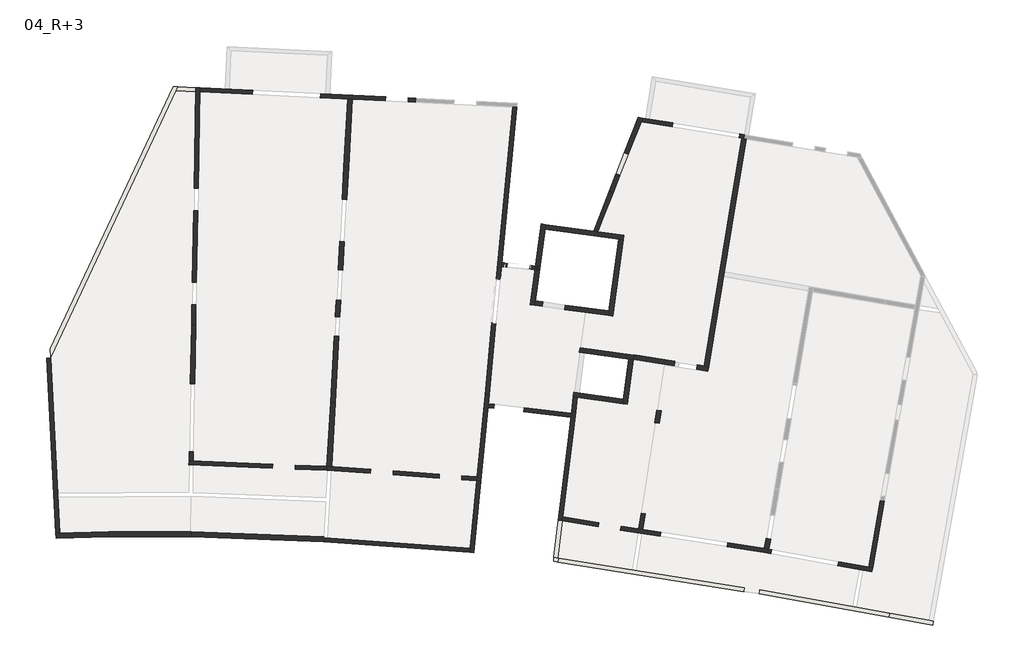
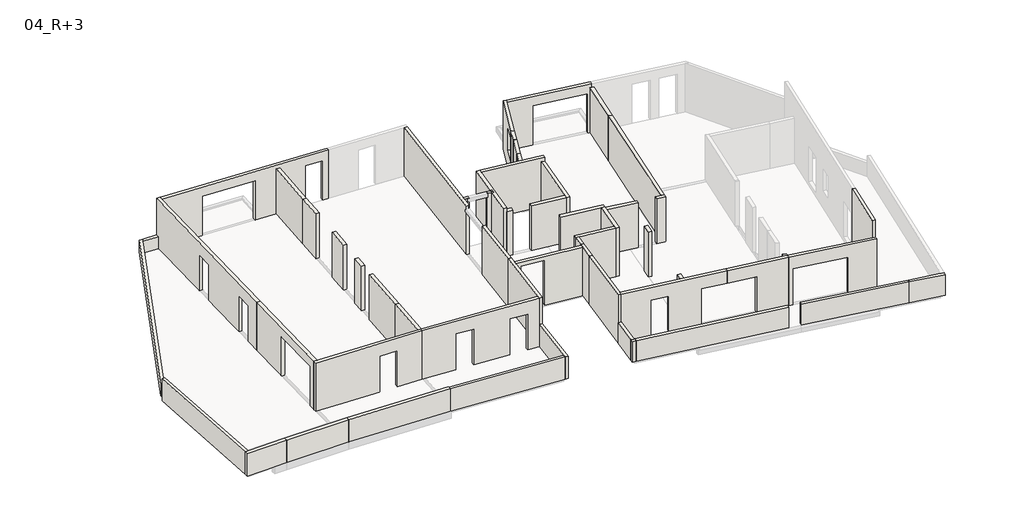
# One storey, part 1 of 2: 58 walls.
"""IFC4 building model written with IfcOpenShell, lengths in millimetres."""

from ifc_helpers import new_model, si_unit, frame, origin, place, context, project, spatial, polyline, outline, extrude, faceted_brep, element, save

model = new_model("IFC4")

# Units and contexts
model_context = context("Model", 3, world=origin())
ifc_project = project(units=[si_unit("LENGTHUNIT", "METRE", prefix="MILLI")], contexts=[model_context])

# Site, building, storey
site = spatial("IfcSite", under=ifc_project)
building = spatial("IfcBuilding", under=site)
storey = spatial("IfcBuildingStorey", under=building, Name="04_R+3", Elevation=29840.0)

# Walls
placement = place(None, origin())
element("IfcWall", 1, ObjectType="premur 18", at=placement, inside=storey, context=model_context, shape_type="Brep", body=[
    faceted_brep([(7155.8639507, 8437.1732179, 29840.0), (7180.2923407, 8615.5079357, 29840.0), (7571.2741046, 11469.7943741, 29840.0), (7595.702488, 11648.1290429, 29840.0), (7595.702488, 11648.1290429, 32540.0), (7571.2741046, 11469.7943741, 32540.0), (7155.8639507, 8437.1732179, 32540.0), (7155.8639507, 8437.1732179, 32340.0), (6977.5111672, 8461.4693588, 29840.0), (6977.5111672, 8461.4693588, 32540.0), (7417.3678084, 11672.5573469, 32540.0), (7417.3678084, 11672.5573469, 29840.0)], [[[0, 1, 2, 3, 4, 5, 6, 7]], [[8, 9, 10, 11]], [[3, 2, 1, 0, 8, 11]], [[6, 5, 4, 10, 9]], [[4, 3, 11, 10]], [[0, 7, 6, 9, 8]]]),
])
element("IfcWall", 2, ObjectType="premur 18", at=placement, inside=storey, context=model_context, shape_type="Brep", body=[
    faceted_brep([(7571.2741046, 11469.7943741, 29840.0), (10483.7664975, 11070.8408458, 29840.0), (10662.1011771, 11046.4125417, 29840.0), (10662.1011771, 11046.4125417, 32340.0), (10662.1011771, 11046.4125417, 32540.0), (7571.2741046, 11469.7943741, 32540.0), (7595.702488, 11648.1290429, 29840.0), (7595.702488, 11648.1290429, 32540.0), (10686.5295651, 11224.7472099, 32540.0), (10686.5295651, 11224.7472099, 29840.0)], [[[0, 1, 2, 3, 4, 5]], [[6, 7, 8, 9]], [[2, 1, 0, 6, 9]], [[5, 4, 8, 7]], [[0, 5, 7, 6]], [[4, 3, 2, 9, 8]]]),
])
element("IfcWall", 3, ObjectType="premur 18", at=placement, inside=storey, context=model_context, shape_type="Brep", body=[
    faceted_brep([(10483.7664975, 11070.8408458, 29840.0), (10093.0803231, 8218.7128543, 29840.0), (10068.6519283, 8040.3781371, 29840.0), (10068.6519283, 8040.3781371, 32340.0), (10093.0803231, 8218.7128543, 32340.0), (10483.7664975, 11070.8408458, 32340.0), (10662.1011771, 11046.4125417, 29840.0), (10662.1011771, 11046.4125417, 32340.0), (10247.0047117, 8016.0819962, 32340.0), (10247.0047117, 8016.0819962, 29840.0)], [[[0, 1, 2, 3, 4, 5]], [[6, 7, 8, 9]], [[2, 1, 0, 6, 9]], [[5, 4, 3, 8, 7]], [[0, 5, 7, 6]], [[3, 2, 9, 8]]]),
])
element("IfcWall", 4, ObjectType="premur 18", at=placement, inside=storey, context=model_context, shape_type="Brep", body=[
    faceted_brep([(10093.0803231, 8218.7128543, 29840.0), (8376.8330718, 8452.5089534, 29840.0), (8376.8330718, 8452.5089534, 31890.0), (8376.8330718, 8452.5089534, 32340.0), (8395.0423714, 8450.0283882, 32340.0), (10093.0803231, 8218.7128543, 32340.0), (10068.6519283, 8040.3781371, 29840.0), (10068.6519283, 8040.3781371, 32340.0), (8370.7462372, 8271.6756538, 32340.0), (8352.5369375, 8274.156219, 32340.0), (8352.5369375, 8274.156219, 31890.0), (8352.5369375, 8274.156219, 29840.0)], [[[0, 1, 2, 3, 4, 5]], [[6, 7, 8, 9, 10, 11]], [[1, 0, 6, 11]], [[3, 2, 1, 11, 10, 9]], [[5, 4, 3, 9, 8, 7]], [[0, 5, 7, 6]]]),
])
element("IfcWall", 5, ObjectType="premur 18", at=placement, inside=storey, context=model_context, shape_type="Brep", body=[
    faceted_brep([(8933.8340773, 6574.2220976, 29840.0), (10896.4175055, 6306.8645431, 29840.0), (11074.7701881, 6282.5680285, 29840.0), (11074.7701881, 6282.5680285, 32540.0), (10896.4175055, 6306.8645431, 32540.0), (8933.8340773, 6574.2220976, 32540.0), (8958.1305919, 6752.5747802, 29840.0), (8958.1305919, 6752.5747802, 32540.0), (11099.0667028, 6460.920711, 32540.0), (11099.0667028, 6460.920711, 32340.0), (11099.0667028, 6460.920711, 29840.0), (11090.6154937, 6462.0719969, 29840.0), (11077.9114759, 6305.6271839, 29840.0)], [[[0, 1, 2, 3, 4, 5]], [[6, 7, 8, 9, 10, 11]], [[2, 1, 0, 6, 11, 10, 12]], [[5, 4, 3, 8, 7]], [[0, 5, 7, 6]], [[3, 2, 12, 10, 9, 8]]]),
])
element("IfcWall", 6, ObjectType="premur 18", at=placement, inside=storey, context=model_context, shape_type="Brep", body=[
    faceted_brep([(10896.4175055, 6306.8645431, 29840.0), (10680.4511709, 4721.5270717, 29840.0), (10656.1546562, 4543.1743891, 29840.0), (10656.1546562, 4543.1743891, 32540.0), (10680.4511709, 4721.5270717, 32540.0), (10896.4175055, 6306.8645431, 32540.0), (11074.7701881, 6282.5680285, 29840.0), (11074.7701881, 6282.5680285, 32540.0), (10834.5073388, 4518.8778745, 32540.0), (10834.5073388, 4518.8778745, 29840.0)], [[[0, 1, 2, 3, 4, 5]], [[6, 7, 8, 9]], [[2, 1, 0, 6, 9]], [[5, 4, 3, 8, 7]], [[0, 5, 7, 6]], [[3, 2, 9, 8]]]),
])
element("IfcWall", 7, ObjectType="premur 18", at=placement, inside=storey, context=model_context, shape_type="SweptSolid", body=[
    extrude(outline(polyline([(8715.5935657, 4989.1944313), (10680.4511709, 4721.5270717), (10656.1546562, 4543.1743891), (8693.9703348, 4810.4775744), (8715.5935657, 4989.1944313)])), frame((0.0, 0.0, 29840.0), z_axis=(0.0, 0.0, 1.0), x_axis=(1.0, 0.0, 0.0)), (0.0, 0.0, 1.0), 2700.0),
])
element("IfcWall", 8, ObjectType="premur 18", at=placement, inside=storey, context=model_context, shape_type="Brep", body=[
    faceted_brep([(7477.3559891, 8575.0403853, 29840.0), (7180.2923407, 8615.5079357, 29840.0), (7180.2923407, 8615.5079357, 32340.0), (7477.3559891, 8575.0403853, 32340.0), (7477.3559891, 8575.0403853, 31890.0), (7453.0598549, 8396.6876509, 29840.0), (7453.0598549, 8396.6876509, 31890.0), (7453.0598549, 8396.6876509, 32340.0), (7155.8639507, 8437.1732179, 32340.0), (7155.8639507, 8437.1732179, 29840.0)], [[[0, 1, 2, 3, 4]], [[5, 6, 7, 8, 9]], [[1, 0, 5, 9]], [[3, 2, 8, 7]], [[0, 4, 3, 7, 6, 5]], [[2, 1, 9, 8]]]),
])
element("IfcWall", 9, ObjectType="Voile BA 16", at=placement, inside=storey, context=model_context, shape_type="Brep", body=[
    faceted_brep([(4853.4022548, 1472.8107539, 29840.0), (4593.763886, -1202.5933393, 29840.0), (4578.3043373, -1361.8939077, 29840.0), (4578.3043373, -1361.8939077, 31080.0), (4593.763886, -1202.5933393, 31080.0), (4853.4022548, 1472.8107539, 31080.0), (5013.0456639, 1461.3907987, 29840.0), (5013.0456639, 1461.3907987, 31080.0), (4737.938527, -1373.408863, 31080.0), (4737.938527, -1373.408863, 29840.0)], [[[0, 1, 2, 3, 4, 5]], [[6, 7, 8, 9]], [[2, 1, 0, 6, 9]], [[5, 4, 3, 8, 7]], [[0, 5, 7, 6]], [[3, 2, 9, 8]]]),
])
element("IfcWall", 10, ObjectType="Voile BA 16", at=placement, inside=storey, context=model_context, shape_type="SweptSolid", body=[
    extrude(outline(polyline([(4593.763886, -1202.5933393), (4578.3043373, -1361.8939077), (-1223.164441, -943.4142931), (-1217.0936626, -783.4364809), (4593.763886, -1202.5933393)])), frame((0.0, 0.0, 29840.0), z_axis=(0.0, 0.0, 1.0), x_axis=(1.0, 0.0, 0.0)), (0.0, 0.0, 1.0), 1240.0),
])
element("IfcWall", 11, ObjectType="Voile BA 16", at=placement, inside=storey, context=model_context, shape_type="SweptSolid", body=[
    extrude(outline(polyline([(-12056.6013268, 6348.7507304), (-11688.4824334, -590.9455417), (-11848.5105581, -594.6559914), (-12216.3766957, 6340.2753837), (-12056.6013268, 6348.7507304)])), frame((0.0, 0.0, 29840.0), z_axis=(0.0, 0.0, 1.0), x_axis=(1.0, 0.0, 0.0)), (0.0, 0.0, 1.0), 1240.0),
])
element("IfcWall", 12, ObjectType="Voile BA 16", at=placement, inside=storey, context=model_context, shape_type="Brep", body=[
    faceted_brep([(-12058.0443978, 6375.9551868, 29840.0), (-7091.4131885, 16959.5835857, 29840.0), (-7017.9135499, 17116.2074278, 29840.0), (-7017.9135499, 17116.2074278, 30500.0), (-7091.4131885, 16959.5835857, 30500.0), (-12058.0443978, 6375.9551868, 30500.0), (-12075.9937842, 6714.3330646, 29840.0), (-12075.9937842, 6714.3330646, 30500.0), (-7190.7226984, 17124.5873438, 30500.0), (-7190.7226984, 17124.5873438, 29840.0)], [[[0, 1, 2, 3, 4, 5]], [[6, 7, 8, 9]], [[2, 1, 0, 6, 9]], [[5, 4, 3, 8, 7]], [[3, 2, 9, 8]], [[0, 5, 7, 6]]]),
])
element("IfcWall", 13, ObjectType="Voile BA 16", at=placement, inside=storey, context=model_context, shape_type="SweptSolid", body=[
    extrude(outline(polyline([(-6291.6405123, 16920.8007554), (-7091.4131885, 16959.5835857), (-7017.9135499, 17116.2074278), (-6288.703255, 17080.8463309), (-6291.6405123, 16920.8007554)])), frame((0.0, 0.0, 29840.0), z_axis=(0.0, 0.0, 1.0), x_axis=(1.0, 0.0, 0.0)), (0.0, 0.0, 1.0), 660.0),
])
element("IfcWall", 14, ObjectType="Voile BA 16", at=placement, inside=storey, context=model_context, shape_type="SweptSolid", body=[
    extrude(outline(polyline([(8534.8528414, 0.0), (8534.8528414, -2700.0), (-32.7715161, -2700.0), (-32.7715161, 0.0), (2057.0997059, 0.0), (2057.0997059, -2200.0), (4757.0997059, -2200.0), (4757.0997059, 0.0), (7343.3769752, 0.0), (7343.3769752, -2200.0), (8243.3769752, -2200.0), (8243.3769752, 0.0), (8534.8528414, 0.0)])), frame((-6099.0228076, 16911.4602765, 29840.0), z_axis=(0.048435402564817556, 0.9988263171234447, 0.0), x_axis=(0.9988263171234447, -0.048435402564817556, 0.0)), (0.0, 0.0, 1.0), 160.0),
])
element("IfcWall", 15, ObjectType="Voile BA 16", at=placement, inside=storey, context=model_context, shape_type="SweptSolid", body=[
    extrude(outline(polyline([(5630.8345119, 9483.7432392), (6293.3492324, 16310.5254411), (6453.3479524, 16302.7667325), (5790.086352, 9468.2884195), (5630.8345119, 9483.7432392)])), frame((0.0, 0.0, 29840.0), z_axis=(0.0, 0.0, 1.0), x_axis=(1.0, 0.0, 0.0)), (0.0, 0.0, 1.0), 2700.0),
])
element("IfcWall", 16, ObjectType="Voile BA 16", at=placement, inside=storey, context=model_context, shape_type="SweptSolid", body=[
    extrude(outline(polyline([(5185.8717031, 4898.6916323), (5461.6436427, 7740.3416525), (5620.8954827, 7724.8868327), (5345.1235431, 4883.2368125), (5185.8717031, 4898.6916323)])), frame((0.0, 0.0, 29840.0), z_axis=(0.0, 0.0, 1.0), x_axis=(1.0, 0.0, 0.0)), (0.0, 0.0, 1.0), 2700.0),
])
element("IfcWall", 17, ObjectType="Voile BA 16", at=placement, inside=storey, context=model_context, shape_type="Brep", body=[
    faceted_brep([(-1077.9433171, 2057.5133518, 29840.0), (-1077.9433171, 2057.5133518, 32540.0), (4868.8620342, 1632.1137002, 32540.0), (4868.8620342, 1632.1137002, 29840.0), (4269.2328859, 1675.0076601, 29840.0), (4269.2328859, 1675.0076601, 31840.0), (3371.5267964, 1739.2243, 31840.0), (3371.5267964, 1739.2243, 29840.0), (1546.2729674, 1869.7922768, 29840.0), (1546.2729674, 1869.7922768, 31840.0), (648.5668779, 1934.0089167, 31840.0), (648.5668779, 1934.0089167, 29840.0), (-1089.3596086, 1897.9211581, 32540.0), (-1089.3596086, 1897.9211581, 29840.0), (637.1505864, 1774.416723, 29840.0), (637.1505864, 1774.416723, 31840.0), (1534.8566759, 1710.2000831, 31840.0), (1534.8566759, 1710.2000831, 29840.0), (3360.1105049, 1579.6321064, 29840.0), (3360.1105049, 1579.6321064, 31840.0), (4257.8165944, 1515.4154665, 31840.0), (4257.8165944, 1515.4154665, 29840.0), (4853.4022548, 1472.8107539, 29840.0), (4853.4022548, 1472.8107539, 32540.0)], [[[0, 1, 2, 3, 4, 5, 6, 7, 8, 9, 10, 11]], [[12, 13, 14, 15, 16, 17, 18, 19, 20, 21, 22, 23]], [[13, 0, 11, 14]], [[3, 22, 21, 4]], [[17, 8, 7, 18]], [[1, 0, 13, 12]], [[2, 1, 12, 23]], [[3, 2, 23, 22]], [[16, 9, 8, 17]], [[9, 16, 15, 10]], [[10, 15, 14, 11]], [[20, 5, 4, 21]], [[5, 20, 19, 6]], [[6, 19, 18, 7]]]),
])
element("IfcWall", 18, ObjectType="Voile BA 16", at=placement, inside=storey, context=model_context, shape_type="Brep", body=[
    faceted_brep([(-6560.5366268, 2269.1621879, 32540.0), (-1086.2719461, 2054.9684487, 32540.0), (-1086.2719461, 2054.9684487, 29840.0), (-2344.3655244, 2104.1943783, 29840.0), (-2344.3655244, 2104.1943783, 31840.0), (-3243.6773854, 2139.3821125, 31840.0), (-3243.6773854, 2139.3821125, 29840.0), (-6560.5366268, 2269.1621879, 29840.0), (-1092.5275433, 1895.0907846, 32540.0), (-6563.4731859, 2109.1546584, 32540.0), (-6563.4731859, 2109.1546584, 29840.0), (-3249.9329826, 1979.5044483, 29840.0), (-3249.9329826, 1979.5044483, 31840.0), (-2350.6211216, 1944.3167142, 31840.0), (-2350.6211216, 1944.3167142, 29840.0), (-1092.5275433, 1895.0907846, 29840.0)], [[[0, 1, 2, 3, 4, 5, 6, 7]], [[8, 9, 10, 11, 12, 13, 14, 15]], [[2, 15, 14, 3]], [[10, 7, 6, 11]], [[1, 0, 9, 8]], [[2, 1, 8, 15]], [[0, 7, 10, 9]], [[13, 4, 3, 14]], [[4, 13, 12, 5]], [[5, 12, 11, 6]]]),
])
element("IfcWall", 19, ObjectType="Voile BA 16", at=placement, inside=storey, context=model_context, shape_type="Brep", body=[
    faceted_brep([(-6301.9039849, 7641.9994285, 29840.0), (-6301.9039849, 7641.9994285, 32540.0), (-6400.6245149, 2262.9052429, 32540.0), (-6400.6245149, 2262.9052429, 29840.0), (-6393.8529492, 2631.8750004, 29840.0), (-6393.8529492, 2631.8750004, 32040.0), (-6344.3091887, 5331.4204095, 32040.0), (-6344.3091887, 5331.4204095, 29840.0), (-6461.8770461, 7644.935355, 32540.0), (-6461.8770461, 7644.935355, 29840.0), (-6504.28225, 5334.356336, 29840.0), (-6504.28225, 5334.356336, 32040.0), (-6553.8260104, 2634.8109269, 32040.0), (-6553.8260104, 2634.8109269, 29840.0), (-6560.5366268, 2269.1621879, 29840.0), (-6560.5366268, 2269.1621879, 32540.0)], [[[0, 1, 2, 3, 4, 5, 6, 7]], [[8, 9, 10, 11, 12, 13, 14, 15]], [[9, 0, 7, 10]], [[3, 14, 13, 4]], [[1, 0, 9, 8]], [[2, 1, 8, 15]], [[3, 2, 15, 14]], [[12, 5, 4, 13]], [[5, 12, 11, 6]], [[6, 11, 10, 7]]]),
])
element("IfcWall", 20, ObjectType="Voile BA 16", at=placement, inside=storey, context=model_context, shape_type="SweptSolid", body=[
    extrude(outline(polyline([(6050.6642878, 9961.4814146), (5839.9607901, 9982.2119836), (5855.4156234, 10141.4639641), (6066.3306285, 10120.7125854), (6050.6642878, 9961.4814146)])), frame((0.0, 0.0, 29840.0), z_axis=(0.0, 0.0, 1.0), x_axis=(1.0, 0.0, 0.0)), (0.0, 0.0, 1.0), 2700.0),
])
element("IfcWall", 21, ObjectType="Voile BA 16", at=placement, inside=storey, context=model_context, shape_type="SweptSolid", body=[
    extrude(outline(polyline([(9863.2982107, 11887.5404513), (9657.543771, 11365.6977971), (9494.3689629, 11388.0495003), (9714.450389, 11946.2288316), (9863.2982107, 11887.5404513)])), frame((0.0, 0.0, 29840.0), z_axis=(0.0, 0.0, 1.0), x_axis=(1.0, 0.0, 0.0)), (0.0, 0.0, 1.0), 2700.0),
])
element("IfcWall", 22, ObjectType="Voile BA 16", at=placement, inside=storey, context=model_context, shape_type="Brep", body=[
    faceted_brep([(15455.8642086, 15054.3095664, 32540.0), (11375.9056437, 15723.8760304, 32540.0), (11375.9056437, 15723.8760304, 29840.0), (12608.1027832, 15521.6588097, 29840.0), (12608.1027832, 15521.6588097, 32040.0), (15272.462294, 15084.4078552, 32040.0), (15272.462294, 15084.4078552, 29840.0), (15455.8642086, 15054.3095664, 29840.0), (11435.9497903, 15876.1624009, 32540.0), (15481.7753763, 15212.1975374, 32540.0), (15481.7753763, 15212.1975374, 29840.0), (15298.3734616, 15242.2958262, 29840.0), (15298.3734616, 15242.2958262, 32040.0), (12634.0139508, 15679.5467807, 32040.0), (12634.0139508, 15679.5467807, 29840.0), (11435.9497903, 15876.1624009, 29840.0)], [[[0, 1, 2, 3, 4, 5, 6, 7]], [[8, 9, 10, 11, 12, 13, 14, 15]], [[10, 7, 6, 11]], [[2, 15, 14, 3]], [[1, 0, 9, 8]], [[2, 1, 8, 15]], [[5, 12, 11, 6]], [[12, 5, 4, 13]], [[13, 4, 3, 14]], [[7, 10, 9, 0]]]),
])
element("IfcWall", 23, ObjectType="Voile BA 16", at=placement, inside=storey, context=model_context, shape_type="SweptSolid", body=[
    extrude(outline(polyline([(-3959.0162281, -2700.0), (-3959.0162281, 0.0), (-3762.2881659, 0.0), (-3762.2881659, -2000.0), (-1062.2881659, -2000.0), (-1062.2881659, 0.0), (305.6110934, 0.0), (305.6110934, -2700.0), (-3959.0162281, -2700.0)])), frame((20234.7782584, -2085.0521102, 29840.0), z_axis=(0.17841179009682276, 0.9839559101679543, 0.0), x_axis=(0.9839559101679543, -0.17841179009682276, 0.0)), (0.0, 0.0, 1.0), 160.0),
])
element("IfcWall", 24, ObjectType="Voile BA 16", at=placement, inside=storey, context=model_context, shape_type="SweptSolid", body=[
    extrude(outline(polyline([(-94.379039, -2700.0), (-3106.2353635, -2700.0), (-3106.2353635, -2000.0), (-1656.185895, -2000.0), (-1656.185895, 0.0), (-94.379039, 0.0), (-94.379039, -2700.0)])), frame((16435.9040937, -1393.9246371, 29840.0), z_axis=(0.1544218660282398, 0.9880050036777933, 0.0), x_axis=(0.9880050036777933, -0.1544218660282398, 0.0)), (0.0, 0.0, 1.0), 160.0),
])
element("IfcWall", 25, ObjectType="Voile BA 16", at=placement, inside=storey, context=model_context, shape_type="Brep", body=[
    faceted_brep([(8278.3152724, 43.021616, 32540.0), (13391.6355106, -756.1731753, 32540.0), (13391.6355106, -756.1731753, 31840.0), (12156.678131, -563.1534818, 31840.0), (12156.678131, -563.1534818, 29840.0), (10584.0459965, -317.3563574, 29840.0), (10584.0459965, -317.3563574, 31840.0), (9694.8414931, -178.376678, 31840.0), (9694.8414931, -178.376678, 29840.0), (8278.3152724, 43.021616, 29840.0), (13366.928012, -914.2539759, 32540.0), (8259.0852479, -115.9152954, 32540.0), (8259.0852479, -115.9152954, 29840.0), (9670.1339946, -336.4574786, 29840.0), (9670.1339946, -336.4574786, 31840.0), (10559.3384979, -475.437158, 31840.0), (10559.3384979, -475.437158, 29840.0), (12131.9706324, -721.2342824, 29840.0), (12131.9706324, -721.2342824, 31840.0), (13366.928012, -914.2539759, 31840.0)], [[[0, 1, 2, 3, 4, 5, 6, 7, 8, 9]], [[10, 11, 12, 13, 14, 15, 16, 17, 18, 19]], [[12, 9, 8, 13]], [[16, 5, 4, 17]], [[1, 0, 11, 10]], [[1, 10, 19, 2]], [[0, 9, 12, 11]], [[15, 6, 5, 16]], [[6, 15, 14, 7]], [[7, 14, 13, 8]], [[18, 3, 2, 19]], [[3, 18, 17, 4]]]),
])
element("IfcWall", 26, ObjectType="Voile BA 16", at=placement, inside=storey, context=model_context, shape_type="SweptSolid", body=[
    extrude(outline(polyline([(8662.7412613, 3220.3175798), (8259.0852479, -115.9152954), (8100.909579, -91.1929692), (8503.8996748, 3239.5360709), (8662.7412613, 3220.3175798)])), frame((0.0, 0.0, 29840.0), z_axis=(0.0, 0.0, 1.0), x_axis=(1.0, 0.0, 0.0)), (0.0, 0.0, 1.0), 2700.0),
])
element("IfcWall", 27, ObjectType="Voile BA 16", at=placement, inside=storey, context=model_context, shape_type="Brep", body=[
    faceted_brep([(5311.2009379, 4533.6864847, 32540.0), (8615.1949896, 4159.3962386, 32540.0), (8615.1949896, 4159.3962386, 29840.0), (6740.8726327, 4371.7273037, 29840.0), (6740.8726327, 4371.7273037, 32340.0), (5548.4992872, 4506.8043366, 32340.0), (5548.4992872, 4506.8043366, 29840.0), (5311.2009379, 4533.6864847, 29840.0), (8595.9759431, 4000.550061, 32540.0), (5295.7441249, 4374.4141056, 32540.0), (5295.7441249, 4374.4141056, 29840.0), (5530.4890161, 4347.8212238, 29840.0), (5530.4890161, 4347.8212238, 32340.0), (6722.8623617, 4212.744191, 32340.0), (6722.8623617, 4212.744191, 29840.0), (8595.9759431, 4000.550061, 29840.0)], [[[0, 1, 2, 3, 4, 5, 6, 7]], [[8, 9, 10, 11, 12, 13, 14, 15]], [[2, 15, 14, 3]], [[10, 7, 6, 11]], [[1, 0, 9, 8]], [[2, 1, 8, 15]], [[5, 12, 11, 6]], [[12, 5, 4, 13]], [[13, 4, 3, 14]], [[0, 7, 10, 9]]]),
])
element("IfcWall", 28, ObjectType="Voile BA 16", at=placement, inside=storey, context=model_context, shape_type="SweptSolid", body=[
    extrude(outline(polyline([(11289.1734201, -427.5654071), (11386.4713689, 194.9512812), (11544.5521432, 170.2436141), (11447.2542207, -452.2729057), (11289.1734201, -427.5654071)])), frame((0.0, 0.0, 29840.0), z_axis=(0.0, 0.0, 1.0), x_axis=(1.0, 0.0, 0.0)), (0.0, 0.0, 1.0), 2500.0),
])
element("IfcWall", 29, ObjectType="Voile BA 16", at=placement, inside=storey, context=model_context, shape_type="Brep", body=[
    faceted_brep([(22980.7538443, -4089.6297088, 29840.0), (22823.383738, -4060.730051, 29840.0), (21255.8059121, -3772.8579522, 29840.0), (21255.8059121, -3772.8579522, 30990.0), (22823.383738, -4060.730051, 30990.0), (22980.7538443, -4089.6297088, 30990.0), (22952.5776329, -4247.1309522, 29840.0), (22952.5776329, -4247.1309522, 30990.0), (21227.3644486, -3930.3104844, 30990.0), (21227.3644486, -3930.3104844, 29840.0)], [[[0, 1, 2, 3, 4, 5]], [[6, 7, 8, 9]], [[2, 1, 0, 6, 9]], [[5, 4, 3, 8, 7]], [[0, 5, 7, 6]], [[3, 2, 9, 8]]]),
])
element("IfcWall", 30, ObjectType="Voile BA 16", at=placement, inside=storey, context=model_context, shape_type="SweptSolid", body=[
    extrude(outline(polyline([(8259.0852479, -115.9152954), (8081.0248123, -1587.5918201), (7922.8865361, -1562.560442), (8100.909579, -91.1929692), (8259.0852479, -115.9152954)])), frame((0.0, 0.0, 29840.0), z_axis=(0.0, 0.0, 1.0), x_axis=(1.0, 0.0, 0.0)), (0.0, 0.0, 1.0), 1150.0),
])
element("IfcWall", 31, ObjectType="Voile BA 16", at=placement, inside=storey, context=model_context, shape_type="Brep", body=[
    faceted_brep([(8120.7469829, -1593.8793596, 29840.0), (8081.0248123, -1587.5918201, 29840.0), (7922.8865361, -1562.560442, 29840.0), (7922.8865361, -1562.560442, 30990.0), (8081.0248123, -1587.5918201, 30990.0), (8120.7469829, -1593.8793596, 30990.0), (8095.7323494, -1751.9118503, 29840.0), (8095.7323494, -1751.9118503, 30990.0), (7903.6551804, -1721.5083557, 30990.0), (7903.6551804, -1721.5083557, 29840.0)], [[[0, 1, 2, 3, 4, 5]], [[6, 7, 8, 9]], [[2, 1, 0, 6, 9]], [[5, 4, 3, 8, 7]], [[0, 5, 7, 6]], [[3, 2, 9, 8]]]),
])
element("IfcWall", 32, ObjectType="Voile BA 16", at=placement, inside=storey, context=model_context, shape_type="Brep", body=[
    faceted_brep([(8095.7323494, -1751.9118503, 29840.0), (11088.7031384, -2225.6629565, 29840.0), (15456.0438842, -2916.9602177, 29840.0), (15456.0438842, -2916.9602177, 30990.0), (8095.7323494, -1751.9118503, 30990.0), (8120.7469829, -1593.8793596, 29840.0), (8120.7469829, -1593.8793596, 30990.0), (15481.0585177, -2758.927727, 30990.0), (15481.0585177, -2758.927727, 29840.0), (11113.4112314, -2067.5819441, 29840.0)], [[[0, 1, 2, 3, 4]], [[5, 6, 7, 8, 9]], [[2, 1, 0, 5, 9, 8]], [[3, 2, 8, 7]], [[4, 3, 7, 6]], [[0, 4, 6, 5]]]),
])
element("IfcWall", 33, ObjectType="Voile BA 16", at=placement, inside=storey, context=model_context, shape_type="Brep", body=[
    faceted_brep([(16066.033767, -3013.4922906, 29840.0), (16066.4277326, -3013.5622716, 29840.0), (19823.0836221, -3680.8650816, 29840.0), (21227.3644486, -3930.3104844, 29840.0), (21227.3644486, -3930.3104844, 30990.0), (16066.033767, -3013.4922906, 30990.0), (16094.0168597, -2855.9583371, 29840.0), (16094.0168597, -2855.9583371, 30990.0), (21255.8059121, -3772.8579522, 30990.0), (21255.8059121, -3772.8579522, 29840.0), (19851.2645179, -3523.3662642, 29840.0), (16094.4108253, -2856.028318, 29840.0)], [[[0, 1, 2, 3, 4, 5]], [[6, 7, 8, 9, 10, 11]], [[3, 2, 1, 0, 6, 11, 10, 9]], [[5, 4, 8, 7]], [[0, 5, 7, 6]], [[4, 3, 9, 8]]]),
])
element("IfcWall", 34, ObjectType="Voile BA 16", at=placement, inside=storey, context=model_context, shape_type="Brep", body=[
    faceted_brep([(6965.3621839, 9871.5448846, 29840.0), (7166.8828389, 9843.9404718, 29840.0), (7166.8828389, 9843.9404718, 32540.0), (6965.3621839, 9871.5448846, 32540.0), (6965.3621839, 9871.5448846, 32340.0), (6987.0763024, 10030.0645901, 29840.0), (6987.0763024, 10030.0645901, 32540.0), (7188.5969575, 10002.4601773, 32540.0), (7188.5969575, 10002.4601773, 29840.0), (6979.4329038, 9974.2654429, 32540.0)], [[[0, 1, 2, 3, 4]], [[5, 6, 7, 8]], [[1, 0, 5, 8]], [[2, 1, 8, 7]], [[3, 2, 7, 6, 9]], [[0, 4, 3, 9, 6, 5]]]),
])
element("IfcWall", 35, ObjectType="Voile BA 16", at=placement, inside=storey, context=model_context, shape_type="SweptSolid", body=[
    extrude(outline(polyline([(20406.5986091, -1953.5978221), (20879.4456935, 689.4384309), (21036.9450605, 661.2613234), (20564.0979761, -1981.7749296), (20406.5986091, -1953.5978221)])), frame((0.0, 0.0, 29840.0), z_axis=(0.0, 0.0, 1.0), x_axis=(1.0, 0.0, 0.0)), (0.0, 0.0, 1.0), 3660.0),
])
element("IfcWall", 36, ObjectType="Voile BA 16", at=placement, inside=storey, context=model_context, shape_type="Brep", body=[
    faceted_brep([(10530.8785367, 13580.6844228, 29840.0), (11435.9497903, 15876.1624009, 29840.0), (11435.9497903, 15876.1624009, 32540.0), (10530.8785367, 13580.6844228, 32540.0), (10869.4725586, 14439.440148, 30840.0), (10539.3504193, 13602.1711511, 30840.0), (10539.3504193, 13602.1711511, 32040.0), (10869.4725586, 14439.440148, 32040.0), (10382.030715, 13639.3728031, 29840.0), (10382.030715, 13639.3728031, 32540.0), (11274.4144331, 15902.6721451, 32540.0), (11274.4144331, 15902.6721451, 29840.0), (10720.6247369, 14498.1285283, 30840.0), (10720.6247369, 14498.1285283, 32040.0), (10390.5025977, 13660.8595314, 32040.0), (10390.5025977, 13660.8595314, 30840.0)], [[[0, 1, 2, 3], [4, 5, 6, 7]], [[8, 9, 10, 11], [12, 13, 14, 15]], [[1, 0, 8, 11]], [[3, 2, 10, 9]], [[0, 3, 9, 8]], [[2, 1, 11, 10]], [[12, 15, 5, 4]], [[15, 14, 6, 5]], [[14, 13, 7, 6]], [[13, 12, 4, 7]]]),
])
element("IfcWall", 37, ObjectType="Voile BA 16", at=placement, inside=storey, context=model_context, shape_type="SweptSolid", body=[
    extrude(outline(polyline([(8852.5238601, 4788.8782466), (8782.8568302, 4213.0774955), (8624.0152437, 4232.2959865), (8693.9703348, 4810.4775744), (8852.5238601, 4788.8782466)])), frame((0.0, 0.0, 29840.0), z_axis=(0.0, 0.0, 1.0), x_axis=(1.0, 0.0, 0.0)), (0.0, 0.0, 1.0), 2700.0),
])
element("IfcWall", 38, ObjectType="Voile BA 16", at=placement, inside=storey, context=model_context, shape_type="SweptSolid", body=[
    extrude(outline(polyline([(10530.8785367, 13580.6844228), (10266.7808253, 12910.8692253), (10117.9330036, 12969.5576056), (10382.030715, 13639.3728031), (10530.8785367, 13580.6844228)])), frame((0.0, 0.0, 29840.0), z_axis=(0.0, 0.0, 1.0), x_axis=(1.0, 0.0, 0.0)), (0.0, 0.0, 1.0), 2700.0),
])
element("IfcWall", 39, ObjectType="Voile BA 16", at=placement, inside=storey, context=model_context, shape_type="SweptSolid", body=[
    extrude(outline(polyline([(4853.4022548, 1472.8107539), (5185.8717031, 4898.6916323), (5345.1235431, 4883.2368125), (5013.0456639, 1461.3907987), (4853.4022548, 1472.8107539)])), frame((0.0, 0.0, 29840.0), z_axis=(0.0, 0.0, 1.0), x_axis=(1.0, 0.0, 0.0)), (0.0, 0.0, 1.0), 2700.0),
])
element("IfcWall", 40, ObjectType="Voile BA 16", at=placement, inside=storey, context=model_context, shape_type="Brep", body=[
    faceted_brep([(-6128.8186029, 17073.0931536, 32540.0), (-6301.9039849, 7641.9994285, 32540.0), (-6301.9039849, 7641.9994285, 29840.0), (-6286.9164821, 8458.6399901, 29840.0), (-6286.9164821, 8458.6399901, 31840.0), (-6270.4018952, 9358.4884598, 31840.0), (-6270.4018952, 9358.4884598, 29840.0), (-6218.4627415, 12188.5542988, 29840.0), (-6218.4627415, 12188.5542988, 31840.0), (-6201.9481547, 13088.4027685, 31840.0), (-6201.9481547, 13088.4027685, 29840.0), (-6128.8186029, 17073.0931536, 29840.0), (-6461.8770461, 7644.935355, 32540.0), (-6288.703255, 17080.8463309, 32540.0), (-6288.703255, 17080.8463309, 29840.0), (-6361.921216, 13091.3386951, 29840.0), (-6361.921216, 13091.3386951, 31840.0), (-6378.4358028, 12191.4902254, 31840.0), (-6378.4358028, 12191.4902254, 29840.0), (-6430.3749565, 9361.4243864, 29840.0), (-6430.3749565, 9361.4243864, 31840.0), (-6446.8895433, 8461.5759167, 31840.0), (-6446.8895433, 8461.5759167, 29840.0), (-6461.8770461, 7644.935355, 29840.0)], [[[0, 1, 2, 3, 4, 5, 6, 7, 8, 9, 10, 11]], [[12, 13, 14, 15, 16, 17, 18, 19, 20, 21, 22, 23]], [[2, 23, 22, 3]], [[11, 10, 15, 14]], [[18, 7, 6, 19]], [[1, 0, 13, 12]], [[2, 1, 12, 23]], [[17, 8, 7, 18]], [[8, 17, 16, 9]], [[9, 16, 15, 10]], [[21, 4, 3, 22]], [[4, 21, 20, 5]], [[5, 20, 19, 6]], [[0, 11, 14, 13]]]),
])
element("IfcWall", 41, ObjectType="Voile BA 16", at=placement, inside=storey, context=model_context, shape_type="SweptSolid", body=[
    extrude(outline(polyline([(10266.7808253, 12910.8692253), (9863.2982107, 11887.5404513), (9714.450389, 11946.2288316), (10117.9330036, 12969.5576056), (10266.7808253, 12910.8692253)])), frame((0.0, 0.0, 29840.0), z_axis=(0.0, 0.0, 1.0), x_axis=(1.0, 0.0, 0.0)), (0.0, 0.0, 1.0), 2700.0),
])
element("IfcWall", 42, ObjectType="Voile BA 16", at=placement, inside=storey, context=model_context, shape_type="SweptSolid", body=[
    extrude(outline(polyline([(8782.8568302, 4213.0774955), (8662.7412613, 3220.3175798), (8503.8996748, 3239.5360709), (8624.0152437, 4232.2959865), (8782.8568302, 4213.0774955)])), frame((0.0, 0.0, 29840.0), z_axis=(0.0, 0.0, 1.0), x_axis=(1.0, 0.0, 0.0)), (0.0, 0.0, 1.0), 2700.0),
])
element("IfcWall", 43, ObjectType="Voile BA 18", at=placement, inside=storey, context=model_context, shape_type="SweptSolid", body=[
    extrude(outline(polyline([(-399.5038569, 10967.7858353), (-461.9954526, 9834.7806931), (-641.722283, 9844.693637), (-579.2306872, 10977.6987792), (-399.5038569, 10967.7858353)])), frame((0.0, 0.0, 29840.0), z_axis=(0.0, 0.0, 1.0), x_axis=(1.0, 0.0, 0.0)), (0.0, 0.0, 1.0), 2500.0),
])
element("IfcWall", 44, ObjectType="Voile BA 18", at=placement, inside=storey, context=model_context, shape_type="SweptSolid", body=[
    extrude(outline(polyline([(-231.9912502, 13934.1871836), (-304.2180538, 12641.2029266), (-483.9378733, 12651.2421735), (-411.7110697, 13944.2264305), (-231.9912502, 13934.1871836)])), frame((0.0, 0.0, 29840.0), z_axis=(0.0, 0.0, 1.0), x_axis=(1.0, 0.0, 0.0)), (0.0, 0.0, 1.0), 2500.0),
])
element("IfcWall", 45, ObjectType="Voile BA 18", at=placement, inside=storey, context=model_context, shape_type="SweptSolid", body=[
    extrude(outline(polyline([(16525.410806, -841.1301547), (16454.0275492, -1234.8147726), (16276.1339999, -1207.010608), (16348.2987421, -809.0160325), (16525.410806, -841.1301547)])), frame((0.0, 0.0, 29840.0), z_axis=(0.0, 0.0, 1.0), x_axis=(1.0, 0.0, 0.0)), (0.0, 0.0, 1.0), 2500.0),
])
element("IfcWall", 46, ObjectType="Voile BA 18", at=placement, inside=storey, context=model_context, shape_type="SweptSolid", body=[
    extrude(outline(polyline([(14976.8979161, 12695.7932157), (15367.0301614, 15068.888219), (15544.6541357, 15039.7381543), (15154.5137309, 12666.593518), (14976.8979161, 12695.7932157)])), frame((0.0, 0.0, 29840.0), z_axis=(0.0, 0.0, 1.0), x_axis=(1.0, 0.0, 0.0)), (0.0, 0.0, 1.0), 2500.0),
])
element("IfcWall", 47, ObjectType="Voile BA 18", at=placement, inside=storey, context=model_context, shape_type="SweptSolid", body=[
    extrude(outline(polyline([(11927.7629852, 3785.2404118), (12005.2223206, 4285.815239), (12183.1052416, 4258.2894984), (12105.6459063, 3757.7146712), (11927.7629852, 3785.2404118)])), frame((0.0, 0.0, 29840.0), z_axis=(0.0, 0.0, 1.0), x_axis=(1.0, 0.0, 0.0)), (0.0, 0.0, 1.0), 2500.0),
])
element("IfcWall", 48, ObjectType="Voile BA 18", at=placement, inside=storey, context=model_context, shape_type="SweptSolid", body=[
    extrude(outline(polyline([(-538.7311924, 8636.9840011), (-575.2495473, 7981.7161922), (-754.9706675, 7991.732127), (-718.4523126, 8646.9999359), (-538.7311924, 8636.9840011)])), frame((0.0, 0.0, 29840.0), z_axis=(0.0, 0.0, 1.0), x_axis=(1.0, 0.0, 0.0)), (0.0, 0.0, 1.0), 2500.0),
])
element("IfcWall", 49, ObjectType="Voile BA 18", at=placement, inside=storey, context=model_context, shape_type="SweptSolid", body=[
    extrude(outline(polyline([(13617.5307217, 6074.8130338), (14058.9060214, 6002.2517851), (14029.7063237, 5824.6359703), (13588.331024, 5897.197219), (13617.5307217, 6074.8130338)])), frame((0.0, 0.0, 29840.0), z_axis=(0.0, 0.0, 1.0), x_axis=(1.0, 0.0, 0.0)), (0.0, 0.0, 1.0), 2500.0),
])
element("IfcWall", 50, ObjectType="Voile BA 18", at=placement, inside=storey, context=model_context, shape_type="SweptSolid", body=[
    extrude(outline(polyline([(11094.4027504, 6485.3140025), (12724.0218036, 6219.7695516), (12695.0728347, 6042.1126992), (11077.9114759, 6305.6271839), (11099.0667028, 6460.920711), (11090.6154937, 6462.0719969), (11094.4027504, 6485.3140025)])), frame((0.0, 0.0, 29840.0), z_axis=(0.0, 0.0, 1.0), x_axis=(1.0, 0.0, 0.0)), (0.0, 0.0, 1.0), 2500.0),
])
element("IfcWall", 51, ObjectType="Voile BA 18", at=placement, inside=storey, context=model_context, shape_type="Brep", body=[
    faceted_brep([(14976.8979161, 12695.7932157, 29840.0), (13881.2929054, 6031.4510391, 29840.0), (13881.2929054, 6031.4510391, 32340.0), (14976.8979161, 12695.7932157, 32340.0), (15154.5137309, 12666.593518, 29840.0), (15154.5137309, 12666.593518, 32340.0), (14058.9087202, 6002.2513414, 32340.0), (14058.9087202, 6002.2513414, 29840.0), (14646.4562887, 9576.1835557, 29840.0), (14679.9795559, 9780.0987631, 29840.0), (14681.6488755, 9790.2528949, 29840.0)], [[[0, 1, 2, 3]], [[4, 5, 6, 7, 8, 9, 10]], [[1, 0, 4, 10, 9, 8, 7]], [[3, 2, 6, 5]], [[0, 3, 5, 4]], [[2, 1, 7, 6]]]),
])
element("IfcWall", 52, ObjectType="Voile BA 18", at=placement, inside=storey, context=model_context, shape_type="SweptSolid", body=[
    extrude(outline(polyline([(-765.3728072, 4578.1821899), (-906.8623677, 2045.2752219), (-1086.5821872, 2055.3144688), (-945.0926267, 4588.2214367), (-765.3728072, 4578.1821899)])), frame((0.0, 0.0, 29840.0), z_axis=(0.0, 0.0, 1.0), x_axis=(1.0, 0.0, 0.0)), (0.0, 0.0, 1.0), 2500.0),
])
element("IfcWall", 53, ObjectType="Voile BA 18", at=placement, inside=storey, context=model_context, shape_type="SweptSolid", body=[
    extrude(outline(polyline([(-81.9781703, 16619.6798396), (-231.9912502, 13934.1871836), (-411.7110697, 13944.2264305), (-261.7717614, 16628.3984474), (-81.9781703, 16619.6798396)])), frame((0.0, 0.0, 29840.0), z_axis=(0.0, 0.0, 1.0), x_axis=(1.0, 0.0, 0.0)), (0.0, 0.0, 1.0), 2500.0),
])
element("IfcWall", 54, ObjectType="Voile BA 18", at=placement, inside=storey, context=model_context, shape_type="SweptSolid", body=[
    extrude(outline(polyline([(-618.4717315, 7214.1036047), (-765.372157, 4578.1938442), (-945.093277, 4588.2097823), (-798.1928515, 7224.1195428), (-618.4717315, 7214.1036047)])), frame((0.0, 0.0, 29840.0), z_axis=(0.0, 0.0, 1.0), x_axis=(1.0, 0.0, 0.0)), (0.0, 0.0, 1.0), 2500.0),
])
element("IfcWall", 55, ObjectType="Voile BA 20", at=placement, inside=storey, context=model_context, shape_type="Brep", body=[
    faceted_brep([(-1215.639556, -745.1177051, 29840.0), (-6468.223845, -545.7945946, 29840.0), (-6468.223845, -545.7945946, 31080.0), (-1215.639556, -745.1177051, 31080.0), (-1223.2236227, -944.9738582, 29840.0), (-1223.2236227, -944.9738582, 31080.0), (-6475.8079118, -745.6507477, 31080.0), (-6475.8079118, -745.6507477, 29840.0), (-6473.9125772, -745.7226712, 29840.0), (-1217.0936626, -783.4364809, 29840.0), (-1223.164441, -943.4142931, 29840.0), (-1223.164441, -943.4142931, 31080.0), (-1217.0936626, -783.4364809, 31080.0)], [[[0, 1, 2, 3]], [[4, 5, 6, 7, 8]], [[1, 0, 9, 10, 4, 8, 7]], [[2, 1, 7, 6]], [[3, 2, 6, 5, 11, 12]], [[0, 3, 12, 11, 5, 4, 10, 9]]]),
])
element("IfcWall", 56, ObjectType="Voile BA 20", at=placement, inside=storey, context=model_context, shape_type="Brep", body=[
    faceted_brep([(-9741.1655416, -545.7945946, 29840.0), (-10382.1524229, -560.6566671, 29840.0), (-11688.4824334, -590.9455417, 29840.0), (-11848.5105581, -594.6559914, 29840.0), (-11848.5105581, -594.6559914, 31080.0), (-11688.4824334, -590.9455417, 31080.0), (-9741.1655416, -545.7945946, 31080.0), (-9738.8472296, -745.7945946, 29840.0), (-9738.8472296, -745.7945946, 31080.0), (-11837.9116646, -794.4639959, 31080.0), (-11837.9116646, -794.4639959, 29840.0), (-10377.5164219, -760.6029286, 29840.0)], [[[0, 1, 2, 3, 4, 5, 6]], [[7, 8, 9, 10, 11]], [[3, 2, 1, 0, 7, 11, 10]], [[6, 5, 4, 9, 8]], [[4, 3, 10, 9]], [[0, 6, 8, 7]]]),
])
element("IfcWall", 57, ObjectType="Voile BA 20", at=placement, inside=storey, context=model_context, shape_type="SweptSolid", body=[
    extrude(outline(polyline([(7258.0292887, 9817.6056961), (7242.5858341, 9819.1139159), (7262.025505, 10018.1669219), (7277.4689596, 10016.6587021), (7258.0292887, 9817.6056961)])), frame((0.0, 0.0, 29840.0), z_axis=(0.0, 0.0, 1.0), x_axis=(1.0, 0.0, 0.0)), (0.0, 0.0, 1.0), 2700.0),
])
element("IfcWall", 58, ObjectType="Voile BA 20", at=placement, inside=storey, context=model_context, shape_type="Brep", body=[
    faceted_brep([(-9738.8472296, -745.7945946, 29840.0), (-6470.1205438, -745.7945946, 29840.0), (-6470.1205438, -745.7945946, 31080.0), (-9738.8472296, -745.7945946, 31080.0), (-9741.1655416, -545.7945946, 29840.0), (-9741.1655416, -545.7945946, 31080.0), (-6470.1205438, -545.7945946, 31080.0), (-6470.1205438, -545.7945946, 29840.0), (-6521.9524802, -545.7945946, 29840.0), (-6470.1205438, -547.7580092, 29840.0)], [[[0, 1, 2, 3]], [[4, 5, 6, 7, 8]], [[1, 0, 4, 8, 7, 9]], [[2, 1, 9, 7, 6]], [[3, 2, 6, 5]], [[0, 3, 5, 4]]]),
])

save(model, "model.ifc")
